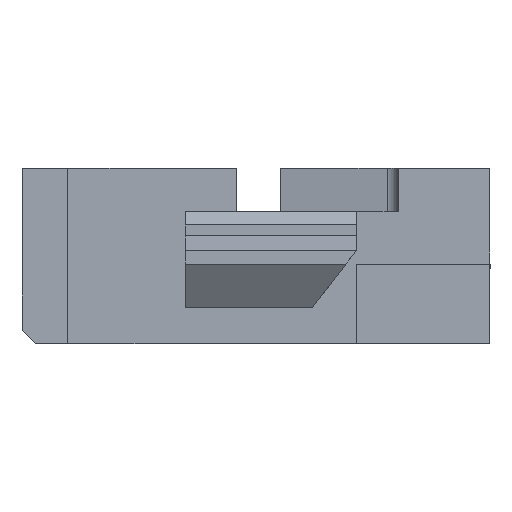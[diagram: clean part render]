
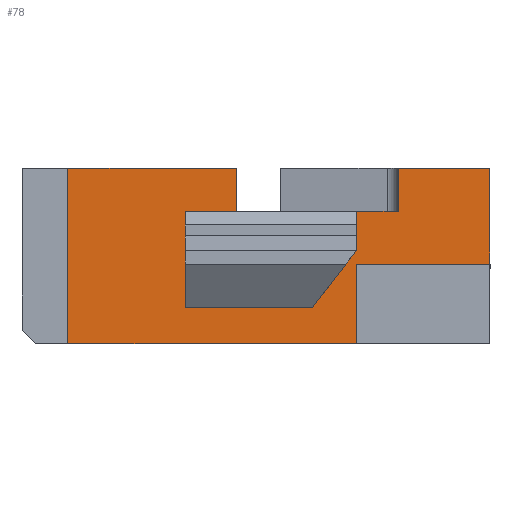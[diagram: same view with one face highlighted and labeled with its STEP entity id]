
A CAD part, left-side view. The second image highlights one B-rep face of the part: STEP entity #78.
In plain terms, the highlighted planar face has unit normal (-1, 0, 0).
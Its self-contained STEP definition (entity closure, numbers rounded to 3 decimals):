
#78=ADVANCED_FACE('',(#240),#241,.T.);
#240=FACE_OUTER_BOUND('',#510,.T.);
#241=PLANE('',#511);
#510=EDGE_LOOP('',(#986,#987,#988,#989,#990,#991,#992,#993,#994,#995,#996,#997,#998,#999,#1000));
#511=AXIS2_PLACEMENT_3D('',#1001,#1002,#1003);
#986=ORIENTED_EDGE('',*,*,#1907,.T.);
#987=ORIENTED_EDGE('',*,*,#1981,.F.);
#988=ORIENTED_EDGE('',*,*,#2005,.F.);
#989=ORIENTED_EDGE('',*,*,#2006,.F.);
#990=ORIENTED_EDGE('',*,*,#2007,.T.);
#991=ORIENTED_EDGE('',*,*,#1903,.T.);
#992=ORIENTED_EDGE('',*,*,#2008,.T.);
#993=ORIENTED_EDGE('',*,*,#2009,.F.);
#994=ORIENTED_EDGE('',*,*,#2010,.F.);
#995=ORIENTED_EDGE('',*,*,#2011,.T.);
#996=ORIENTED_EDGE('',*,*,#1993,.F.);
#997=ORIENTED_EDGE('',*,*,#2012,.T.);
#998=ORIENTED_EDGE('',*,*,#2013,.F.);
#999=ORIENTED_EDGE('',*,*,#1956,.F.);
#1000=ORIENTED_EDGE('',*,*,#1909,.F.);
#1001=CARTESIAN_POINT('',(-3.05,3.47,1.3));
#1002=DIRECTION('',(-1.0,0.0,0.));
#1003=DIRECTION('',(0.,0.0,1.0));
#1903=EDGE_CURVE('',#2322,#2320,#2323,.T.);
#1907=EDGE_CURVE('',#2247,#2328,#2330,.T.);
#1909=EDGE_CURVE('',#2247,#2333,#2334,.T.);
#1956=EDGE_CURVE('',#2333,#2417,#2418,.T.);
#1981=EDGE_CURVE('',#2462,#2328,#2464,.T.);
#1993=EDGE_CURVE('',#2484,#2486,#2487,.T.);
#2005=EDGE_CURVE('',#2505,#2462,#2506,.T.);
#2006=EDGE_CURVE('',#2507,#2505,#2508,.T.);
#2007=EDGE_CURVE('',#2507,#2322,#2509,.T.);
#2008=EDGE_CURVE('',#2320,#2510,#2511,.T.);
#2009=EDGE_CURVE('',#2512,#2510,#2513,.T.);
#2010=EDGE_CURVE('',#2514,#2512,#2515,.T.);
#2011=EDGE_CURVE('',#2514,#2486,#2516,.T.);
#2012=EDGE_CURVE('',#2484,#2517,#2518,.T.);
#2013=EDGE_CURVE('',#2417,#2517,#2519,.T.);
#2247=VERTEX_POINT('',#2866);
#2320=VERTEX_POINT('',#2969);
#2322=VERTEX_POINT('',#2972);
#2323=LINE('',#2973,#2974);
#2328=VERTEX_POINT('',#2981);
#2330=LINE('',#2984,#2985);
#2333=VERTEX_POINT('',#2989);
#2334=LINE('',#2990,#2991);
#2417=VERTEX_POINT('',#3120);
#2418=LINE('',#3121,#3122);
#2462=VERTEX_POINT('',#3183);
#2464=LINE('',#3186,#3187);
#2484=VERTEX_POINT('',#3217);
#2486=VERTEX_POINT('',#3220);
#2487=LINE('',#3221,#3222);
#2505=VERTEX_POINT('',#3251);
#2506=LINE('',#3252,#3253);
#2507=VERTEX_POINT('',#3254);
#2508=LINE('',#3255,#3256);
#2509=LINE('',#3257,#3258);
#2510=VERTEX_POINT('',#3259);
#2511=LINE('',#3260,#3261);
#2512=VERTEX_POINT('',#3262);
#2513=LINE('',#3263,#3264);
#2514=VERTEX_POINT('',#3265);
#2515=LINE('',#3266,#3267);
#2516=LINE('',#3268,#3269);
#2517=VERTEX_POINT('',#3270);
#2518=LINE('',#3271,#3272);
#2519=LINE('',#3273,#3274);
#2866=CARTESIAN_POINT('',(-3.05,0.68,0.98));
#2969=CARTESIAN_POINT('',(-3.05,1.88,0.98));
#2972=CARTESIAN_POINT('',(-3.05,2.26,0.98));
#2973=CARTESIAN_POINT('',(-3.05,2.26,0.98));
#2974=VECTOR('',#3819,1.0);
#2981=CARTESIAN_POINT('',(-3.05,0.99,0.98));
#2984=CARTESIAN_POINT('',(-3.05,1.88,0.98));
#2985=VECTOR('',#3823,1.0);
#2989=CARTESIAN_POINT('',(-3.05,0.68,1.3));
#2990=CARTESIAN_POINT('',(-3.05,0.68,-1.868));
#2991=VECTOR('',#3825,1.0);
#3120=CARTESIAN_POINT('',(-3.05,0.0,1.3));
#3121=CARTESIAN_POINT('',(-3.05,3.47,1.3));
#3122=VECTOR('',#3872,1.0);
#3183=CARTESIAN_POINT('',(-3.05,0.99,0.69));
#3186=CARTESIAN_POINT('',(-3.05,0.99,0.27));
#3187=VECTOR('',#3909,1.0);
#3217=CARTESIAN_POINT('',(-3.05,0.99,0.59));
#3220=CARTESIAN_POINT('',(-3.05,0.99,0.));
#3221=CARTESIAN_POINT('',(-3.05,0.99,0.59));
#3222=VECTOR('',#3921,1.0);
#3251=CARTESIAN_POINT('',(-3.05,1.318,0.27));
#3252=CARTESIAN_POINT('',(-3.05,1.318,0.27));
#3253=VECTOR('',#3933,1.0);
#3254=CARTESIAN_POINT('',(-3.05,2.26,0.27));
#3255=CARTESIAN_POINT('',(-3.05,2.26,0.27));
#3256=VECTOR('',#3934,1.0);
#3257=CARTESIAN_POINT('',(-3.05,2.26,0.27));
#3258=VECTOR('',#3935,1.0);
#3259=CARTESIAN_POINT('',(-3.05,1.88,1.3));
#3260=CARTESIAN_POINT('',(-3.05,1.88,-1.868));
#3261=VECTOR('',#3936,1.0);
#3262=CARTESIAN_POINT('',(-3.05,3.13,1.3));
#3263=CARTESIAN_POINT('',(-3.05,3.47,1.3));
#3264=VECTOR('',#3937,1.0);
#3265=CARTESIAN_POINT('',(-3.05,3.13,0.));
#3266=CARTESIAN_POINT('',(-3.05,3.13,-11.57));
#3267=VECTOR('',#3938,1.0);
#3268=CARTESIAN_POINT('',(-3.05,3.47,0.));
#3269=VECTOR('',#3939,1.0);
#3270=CARTESIAN_POINT('',(-3.05,0.0,0.59));
#3271=CARTESIAN_POINT('',(-3.05,0.99,0.59));
#3272=VECTOR('',#3940,1.0);
#3273=CARTESIAN_POINT('',(-3.05,0.0,1.3));
#3274=VECTOR('',#3941,1.0);
#3819=DIRECTION('',(0.0,-1.0,0.0));
#3823=DIRECTION('',(0.,1.0,0.));
#3825=DIRECTION('',(0.0,0.0,1.0));
#3872=DIRECTION('',(0.0,-1.0,0.0));
#3909=DIRECTION('',(0.,0.0,1.0));
#3921=DIRECTION('',(0.0,0.0,-1.0));
#3933=DIRECTION('',(0.,-0.616,0.788));
#3934=DIRECTION('',(0.0,-1.0,0.0));
#3935=DIRECTION('',(0.,0.0,1.0));
#3936=DIRECTION('',(0.0,0.0,1.0));
#3937=DIRECTION('',(0.0,-1.0,0.0));
#3938=DIRECTION('',(0.0,0.0,1.0));
#3939=DIRECTION('',(0.0,-1.0,0.0));
#3940=DIRECTION('',(0.0,-1.0,0.0));
#3941=DIRECTION('',(0.,0.0,-1.0));
